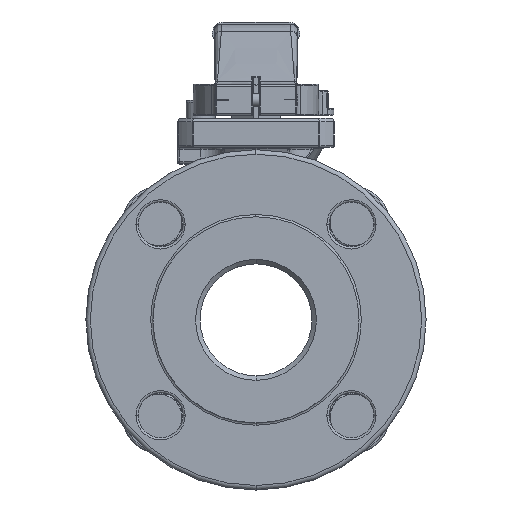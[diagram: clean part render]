
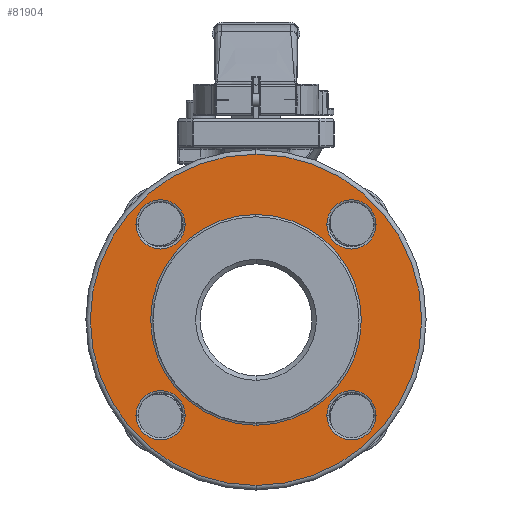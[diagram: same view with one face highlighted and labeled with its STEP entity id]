
A CAD part, left-side view. The second image highlights one B-rep face of the part: STEP entity #81904.
In plain terms, the highlighted planar face has unit normal (-1, 0, 0).
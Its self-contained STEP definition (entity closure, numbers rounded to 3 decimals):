
#14896=CARTESIAN_POINT('',(-58.4,0.,0.));
#14897=DIRECTION('',(1.,0.,0.));
#14898=DIRECTION('',(0.,0.,1.));
#14899=AXIS2_PLACEMENT_3D('',#14896,#14897,#14898);
#14911=CARTESIAN_POINT('',(-58.4,0.,0.));
#14912=DIRECTION('',(1.,0.,0.));
#14913=DIRECTION('',(0.,0.,-1.));
#14914=AXIS2_PLACEMENT_3D('',#14911,#14912,#14913);
#14929=CARTESIAN_POINT('',(-58.4,0.,0.));
#14930=DIRECTION('',(-1.,0.,0.));
#14931=DIRECTION('',(0.,0.,-1.));
#14932=AXIS2_PLACEMENT_3D('',#14929,#14930,#14931);
#14944=CARTESIAN_POINT('',(-58.4,0.,0.));
#14945=DIRECTION('',(-1.,0.,0.));
#14946=DIRECTION('',(0.,0.,1.));
#14947=AXIS2_PLACEMENT_3D('',#14944,#14945,#14946);
#24546=CARTESIAN_POINT('',(-58.4,-42.639,42.639));
#24547=DIRECTION('',(1.,0.,0.));
#24548=DIRECTION('',(0.,-1.,0.));
#24549=AXIS2_PLACEMENT_3D('',#24546,#24547,#24548);
#24561=CARTESIAN_POINT('',(-58.4,-42.639,42.639));
#24562=DIRECTION('',(1.,0.,0.));
#24563=DIRECTION('',(0.,1.,0.));
#24564=AXIS2_PLACEMENT_3D('',#24561,#24562,#24563);
#24614=CARTESIAN_POINT('',(-58.4,42.639,42.639));
#24615=DIRECTION('',(1.,0.,0.));
#24616=DIRECTION('',(0.,-1.,0.));
#24617=AXIS2_PLACEMENT_3D('',#24614,#24615,#24616);
#24629=CARTESIAN_POINT('',(-58.4,42.639,42.639));
#24630=DIRECTION('',(1.,0.,0.));
#24631=DIRECTION('',(0.,1.,0.));
#24632=AXIS2_PLACEMENT_3D('',#24629,#24630,#24631);
#24682=CARTESIAN_POINT('',(-58.4,42.639,-42.639));
#24683=DIRECTION('',(1.,0.,0.));
#24684=DIRECTION('',(0.,1.,0.));
#24685=AXIS2_PLACEMENT_3D('',#24682,#24683,#24684);
#24697=CARTESIAN_POINT('',(-58.4,42.639,-42.639));
#24698=DIRECTION('',(1.,0.,0.));
#24699=DIRECTION('',(0.,-1.,0.));
#24700=AXIS2_PLACEMENT_3D('',#24697,#24698,#24699);
#24750=CARTESIAN_POINT('',(-58.4,-42.639,-42.639));
#24751=DIRECTION('',(1.,0.,0.));
#24752=DIRECTION('',(0.,1.,0.));
#24753=AXIS2_PLACEMENT_3D('',#24750,#24751,#24752);
#24765=CARTESIAN_POINT('',(-58.4,-42.639,-42.639));
#24766=DIRECTION('',(1.,0.,0.));
#24767=DIRECTION('',(0.,-1.,0.));
#24768=AXIS2_PLACEMENT_3D('',#24765,#24766,#24767);
#48689=CARTESIAN_POINT('',(-58.4,0.,-74.));
#48690=CARTESIAN_POINT('',(-58.4,0.,74.));
#48691=VERTEX_POINT('',#48689);
#48692=VERTEX_POINT('',#48690);
#48706=CARTESIAN_POINT('',(-58.4,-53.639,42.639));
#48707=CARTESIAN_POINT('',(-58.4,-31.639,42.639));
#48708=VERTEX_POINT('',#48706);
#48709=VERTEX_POINT('',#48707);
#48714=CARTESIAN_POINT('',(-58.4,31.639,42.639));
#48715=CARTESIAN_POINT('',(-58.4,53.639,42.639));
#48716=VERTEX_POINT('',#48714);
#48717=VERTEX_POINT('',#48715);
#48722=CARTESIAN_POINT('',(-58.4,53.639,-42.639));
#48723=CARTESIAN_POINT('',(-58.4,31.639,-42.639));
#48724=VERTEX_POINT('',#48722);
#48725=VERTEX_POINT('',#48723);
#48730=CARTESIAN_POINT('',(-58.4,-31.639,-42.639));
#48731=CARTESIAN_POINT('',(-58.4,-53.639,-42.639));
#48732=VERTEX_POINT('',#48730);
#48733=VERTEX_POINT('',#48731);
#50455=CARTESIAN_POINT('',(-58.4,0.,-47.05));
#50456=CARTESIAN_POINT('',(-58.4,0.,47.05));
#50457=VERTEX_POINT('',#50455);
#50458=VERTEX_POINT('',#50456);
#81865=CARTESIAN_POINT('',(-58.4,0.,0.));
#81866=DIRECTION('',(-1.,0.,0.));
#81867=DIRECTION('',(0.,0.,1.));
#81868=AXIS2_PLACEMENT_3D('',#81865,#81866,#81867);
#81869=PLANE('',#81868);
#81870=ORIENTED_EDGE('',*,*,#81847,.T.);
#81871=ORIENTED_EDGE('',*,*,#81832,.T.);
#81872=EDGE_LOOP('',(#81870,#81871));
#81873=FACE_OUTER_BOUND('',#81872,.F.);
#81875=ORIENTED_EDGE('',*,*,#81874,.T.);
#81877=ORIENTED_EDGE('',*,*,#81876,.T.);
#81878=EDGE_LOOP('',(#81875,#81877));
#81879=FACE_BOUND('',#81878,.F.);
#81881=ORIENTED_EDGE('',*,*,#81880,.F.);
#81883=ORIENTED_EDGE('',*,*,#81882,.F.);
#81884=EDGE_LOOP('',(#81881,#81883));
#81885=FACE_BOUND('',#81884,.F.);
#81887=ORIENTED_EDGE('',*,*,#81886,.F.);
#81889=ORIENTED_EDGE('',*,*,#81888,.F.);
#81890=EDGE_LOOP('',(#81887,#81889));
#81891=FACE_BOUND('',#81890,.F.);
#81893=ORIENTED_EDGE('',*,*,#81892,.F.);
#81895=ORIENTED_EDGE('',*,*,#81894,.F.);
#81896=EDGE_LOOP('',(#81893,#81895));
#81897=FACE_BOUND('',#81896,.F.);
#81899=ORIENTED_EDGE('',*,*,#81898,.F.);
#81901=ORIENTED_EDGE('',*,*,#81900,.F.);
#81902=EDGE_LOOP('',(#81899,#81901));
#81903=FACE_BOUND('',#81902,.F.);
#81904=ADVANCED_FACE('',(#81873,#81879,#81885,#81891,#81897,#81903),#81869,.T.);
#14900=CIRCLE('',#14899,74.);
#14915=CIRCLE('',#14914,74.);
#14933=CIRCLE('',#14932,47.05);
#14948=CIRCLE('',#14947,47.05);
#24550=CIRCLE('',#24549,11.);
#24565=CIRCLE('',#24564,11.);
#24618=CIRCLE('',#24617,11.);
#24633=CIRCLE('',#24632,11.);
#24686=CIRCLE('',#24685,11.);
#24701=CIRCLE('',#24700,11.);
#24754=CIRCLE('',#24753,11.);
#24769=CIRCLE('',#24768,11.);
#81832=EDGE_CURVE('',#48692,#48691,#14900,.T.);
#81847=EDGE_CURVE('',#48691,#48692,#14915,.T.);
#81874=EDGE_CURVE('',#50457,#50458,#14933,.T.);
#81876=EDGE_CURVE('',#50458,#50457,#14948,.T.);
#81880=EDGE_CURVE('',#48708,#48709,#24550,.T.);
#81882=EDGE_CURVE('',#48709,#48708,#24565,.T.);
#81886=EDGE_CURVE('',#48716,#48717,#24618,.T.);
#81888=EDGE_CURVE('',#48717,#48716,#24633,.T.);
#81892=EDGE_CURVE('',#48724,#48725,#24686,.T.);
#81894=EDGE_CURVE('',#48725,#48724,#24701,.T.);
#81898=EDGE_CURVE('',#48732,#48733,#24754,.T.);
#81900=EDGE_CURVE('',#48733,#48732,#24769,.T.);
